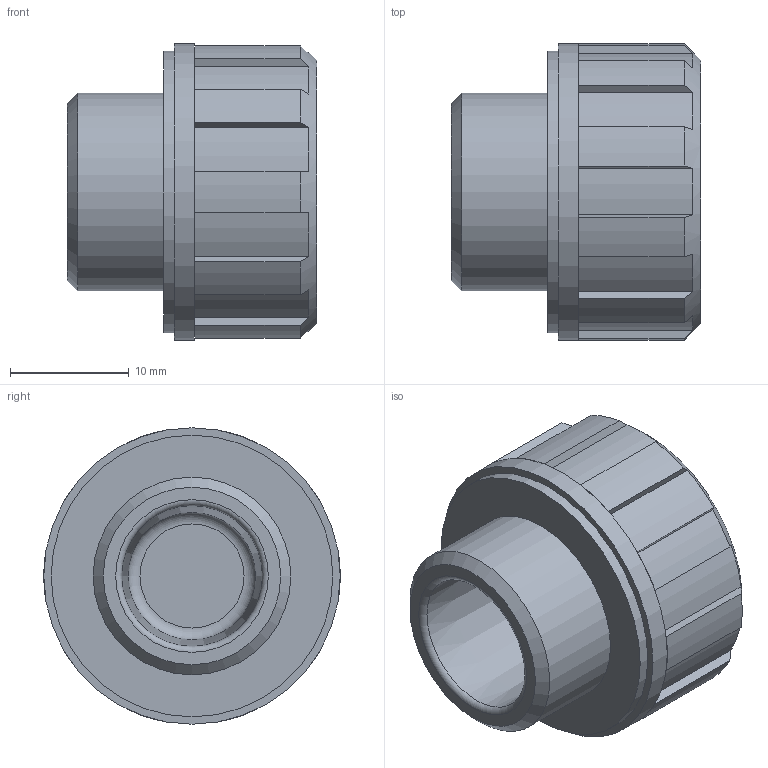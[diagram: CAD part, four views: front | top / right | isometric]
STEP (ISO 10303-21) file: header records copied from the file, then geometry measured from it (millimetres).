
FILE_DESCRIPTION( ( 'STEP AP203' ), '1' );
FILE_NAME( 'C:/Temp/Ganter_Step_05_03_2020/data/3_5/gn548_1/Plug GN 548.1-G3_8-A.stp', '2020-03-12T13:35:43', ( 'License CC BY-ND 4.0' ), ( 'CADENAS' ), ' ', 'PARTsolutions', ' ' );
FILE_SCHEMA( ( 'CONFIG_CONTROL_DESIGN' ) );
Length unit declared in the file: millimetre
Products named in the file (1): _Plug GN 548.1-G3/8-A
Bounding box: 21 x 25 x 25 mm (x, y, z)
Volume: 5986.7 mm3; surface area: 3105 mm2
Topology: 1 solids, 1 shells, 56 faces, 145 edges, 96 vertices
Faces by surface type: plane 27, cylinder 24, cone 3, torus 2
Full cylindrical faces by diameter (mm): 16.662 x1, 22.727 x1, 23.75 x1, 25 x1
Entity records: 1728 total; most frequent: CARTESIAN_POINT 345, DIRECTION 282, ORIENTED_EDGE 268, EDGE_CURVE 134, AXIS2_PLACEMENT_3D 111, VERTEX_POINT 94, EDGE_LOOP 70, FACE_OUTER_BOUND 62
